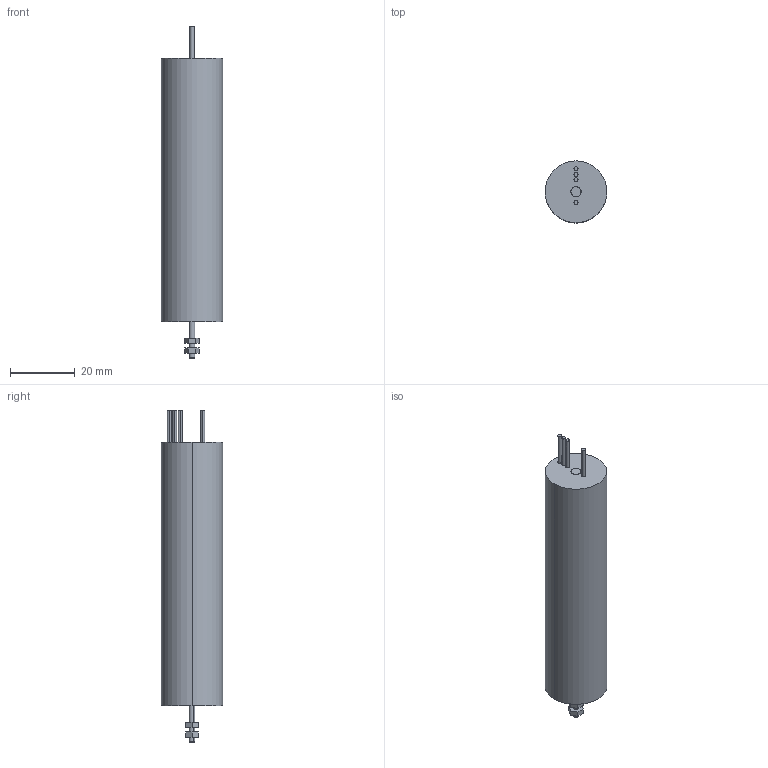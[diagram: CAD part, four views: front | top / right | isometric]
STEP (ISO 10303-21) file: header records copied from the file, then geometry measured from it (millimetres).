
FILE_DESCRIPTION(('STEP AP203'),'1');
FILE_NAME('C:/TPO v2/SharedFS/Outgoing/burster_87242-000_6ow7k1v4q80vks59lrxuuk8zm.stp','2013-08-26T20:07:11',('TraceParts'),('TraceParts S.A.'),'XStep 1.0',' ',' ');
FILE_SCHEMA(('CONFIG_CONTROL_DESIGN'));
Length unit declared in the file: millimetre
Products named in the file (4): 1; 2; 3; 4
Bounding box: 19.1 x 19.1 x 102.7 mm (x, y, z)
Volume: 23242.5 mm3; surface area: 7251.7 mm2
Topology: 4 solids, 4 shells, 55 faces, 116 edges, 74 vertices
Faces by surface type: plane 25, cylinder 20, cone 10
Entity records: 1668 total; most frequent: DIRECTION 284, CARTESIAN_POINT 249, ORIENTED_EDGE 232, EDGE_CURVE 116, AXIS2_PLACEMENT_3D 109, VERTEX_POINT 74, EDGE_LOOP 66, LINE 66
